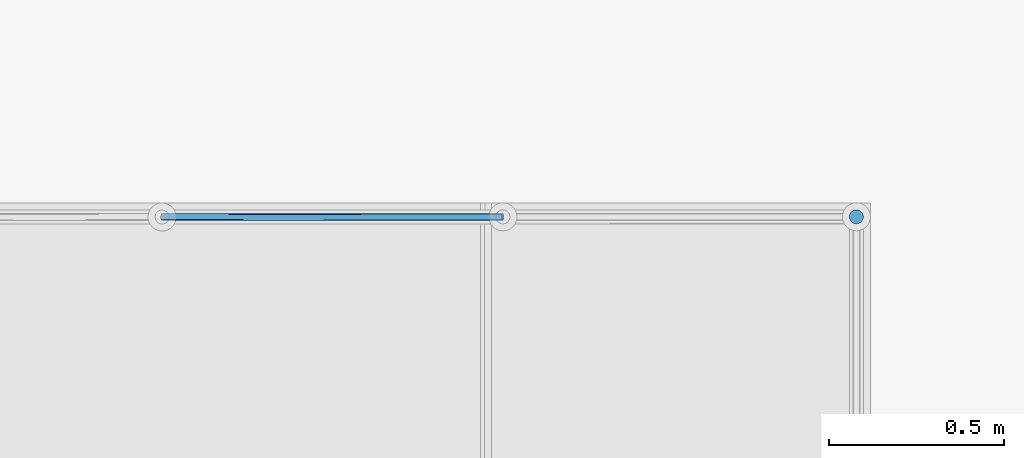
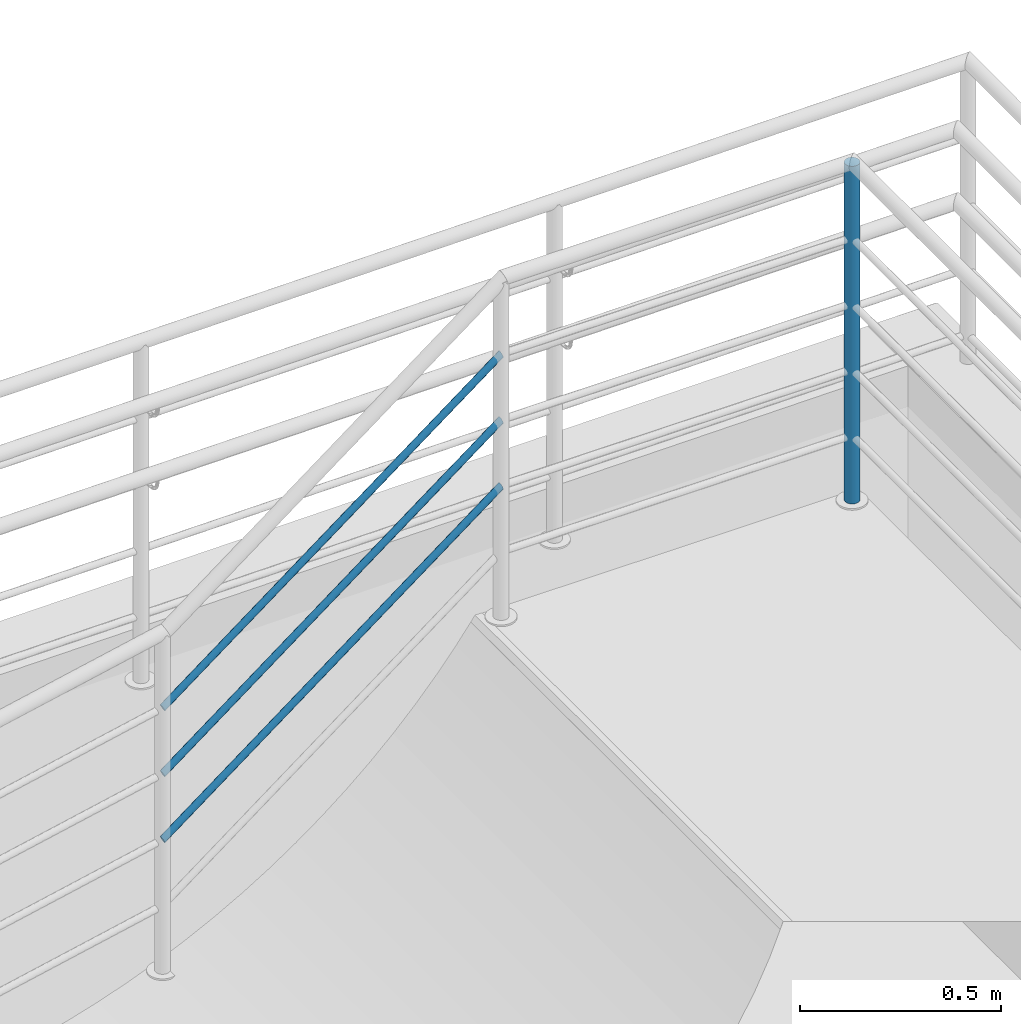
# One storey, part 53 of 237: 5 building element parts, 1 element without a shape of its own.
"""IFC2X3 building model written with IfcOpenShell, lengths in millimetres."""

import ifcopenshell
import ifcopenshell.guid

model = None  # the IFC model being written
_history = None  # IfcOwnerHistory: only IFC2X3 demands one
_inside = {}  # id of a spatial element -> (the spatial element, [elements in it])
_under = {}  # id of a project, library or spatial element -> (it, [spatial elements below it])
_declared = {}  # id of a project -> (the project, [libraries it declares])
_typed = {}  # id of a type object -> (the type object, [elements of that type])
_made_of = {}  # id of a material, layer set ... -> (it, [elements and type objects made of it])


def new_model(schema):
    """Start an empty IFC model of exactly this schema.

    Asked for "IFC4X3", IfcOpenShell would pick the latest addendum, in which some entities
    have other attributes; the version numbers below select the first issue.
    IFC2X3 requires an IfcOwnerHistory on every rooted entity: one is made here for all.
    """
    global model, _history
    if schema == "IFC4X3":
        model = ifcopenshell.file(schema_version=(4, 3, 0, 0))
    else:
        model = ifcopenshell.file(schema=schema)
    _inside.clear()
    _under.clear()
    _declared.clear()
    _typed.clear()
    _made_of.clear()
    _history = None
    if model.schema == "IFC2X3":
        org = make("IfcOrganization", Name="unknown")
        user = make(
            "IfcPersonAndOrganization",
            ThePerson=make("IfcPerson", FamilyName="unknown"),
            TheOrganization=org,
        )
        app = make(
            "IfcApplication",
            ApplicationDeveloper=org,
            Version="unknown",
            ApplicationFullName="unknown",
            ApplicationIdentifier="unknown",
        )
        _history = make(
            "IfcOwnerHistory",
            OwningUser=user,
            OwningApplication=app,
            ChangeAction="ADDED",
            CreationDate=0,
        )
    return model


def make(cls, **values):
    """One entity of the class cls with the attributes given. An attribute that is None is left unset."""
    return model.create_entity(
        cls, **{name: value for name, value in values.items() if value is not None}
    )


def entity(cls, *values):
    """Any entity or typed value of the class cls, its attributes in the order of the schema. None: left unset."""
    e = model.create_entity(cls)
    for i, value in enumerate(values):
        if value is not None:
            e[i] = value
    return e


def rooted(cls, **values):
    """An entity with a GlobalId (a new one), such as an element, a storey or a relation."""
    return make(cls, GlobalId=ifcopenshell.guid.new(), OwnerHistory=_history, **values)


def si_unit(unit_type, name, prefix=None):
    """IfcSIUnit, for example si_unit("LENGTHUNIT", "METRE", prefix="MILLI")."""
    return make("IfcSIUnit", UnitType=unit_type, Prefix=prefix, Name=name)


def converted_unit(unit_type, name, factor, base, dimensions=None, offset=None):
    """IfcConversionBasedUnit, such as the inch: factor (a typed value) times the base unit."""
    return make(
        "IfcConversionBasedUnit"
        if offset is None
        else "IfcConversionBasedUnitWithOffset",
        ConversionOffset=offset,
        Dimensions=None
        if dimensions is None
        else entity("IfcDimensionalExponents", *dimensions),
        UnitType=unit_type,
        Name=name,
        ConversionFactor=make(
            "IfcMeasureWithUnit", ValueComponent=factor, UnitComponent=base
        ),
    )


def derived_unit(unit_type, elements):
    """IfcDerivedUnit: a product of units, each with its exponent."""
    return make(
        "IfcDerivedUnit",
        Elements=[
            make("IfcDerivedUnitElement", Unit=unit, Exponent=power)
            for unit, power in elements
        ],
        UnitType=unit_type,
    )


def money_unit(currency):
    """IfcMonetaryUnit."""
    return make("IfcMonetaryUnit", Currency=currency)


def assignment(units):
    """IfcUnitAssignment: the units of a project."""
    return None if units is None else make("IfcUnitAssignment", Units=units)


def point(xyz):
    """IfcCartesianPoint."""
    return None if xyz is None else make("IfcCartesianPoint", Coordinates=xyz)


def direction(xyz):
    """IfcDirection."""
    return None if xyz is None else make("IfcDirection", DirectionRatios=xyz)


def frame(location, z_axis=None, x_axis=None):
    """IfcAxis2Placement3D, a coordinate frame: its origin and axes. An axis left out is left unset."""
    return make(
        "IfcAxis2Placement3D",
        Location=point(location),
        Axis=direction(z_axis),
        RefDirection=direction(x_axis),
    )


def origin_with_axes():
    """The frame at (0, 0, 0) with the z axis (0, 0, 1) and the x axis (1, 0, 0) written out."""
    return frame((0.0, 0.0, 0.0), z_axis=(0.0, 0.0, 1.0), x_axis=(1.0, 0.0, 0.0))


def place(relative_to, where):
    """IfcLocalPlacement: puts the frame where relative to a parent placement (None: the world)."""
    return make(
        "IfcLocalPlacement", PlacementRelTo=relative_to, RelativePlacement=where
    )


def context(
    kind, dimensions, precision=None, world=None, true_north=None, identifier=None
):
    """IfcGeometricRepresentationContext, for example the 3D "Model" context."""
    return make(
        "IfcGeometricRepresentationContext",
        ContextIdentifier=identifier,
        ContextType=kind,
        CoordinateSpaceDimension=dimensions,
        Precision=precision,
        WorldCoordinateSystem=world,
        TrueNorth=true_north,
    )


def subcontext(parent, identifier, kind, view, scale=None):
    """IfcGeometricRepresentationSubContext, for example "Body" below "Model"."""
    return make(
        "IfcGeometricRepresentationSubContext",
        ContextIdentifier=identifier,
        ContextType=kind,
        ParentContext=parent,
        TargetScale=scale,
        TargetView=view,
    )


def project(units=None, contexts=None):
    """IfcProject with its units and contexts."""
    return rooted(
        "IfcProject",
        Name="project",
        RepresentationContexts=contexts,
        UnitsInContext=assignment(units),
    )


def spatial(cls, under=None, at=None, **own):
    """A site, building, storey or space (cls), placed at a placement, below another one or the project."""
    s = rooted(cls, ObjectPlacement=at, **own)
    if under is not None:
        _under.setdefault(under.id(), (under, []))[1].append(s)
    return s


def faces_of(points, faces, orient=None, outer=None):
    """IfcFace entities. A face is a list of loops; a loop is a list of indices into points, from 0.

    orient and outer hold one flag for each loop. By default every Orientation is true, the
    first loop of a face is its IfcFaceOuterBound and the others are IfcFaceBound.
    """
    made = []
    for i, loops in enumerate(faces):
        bounds = []
        for j, loop in enumerate(loops):
            is_outer = j == 0 if outer is None else outer[i][j]
            bounds.append(
                make(
                    "IfcFaceOuterBound" if is_outer else "IfcFaceBound",
                    Bound=make("IfcPolyLoop", Polygon=[points[k] for k in loop]),
                    Orientation=True if orient is None else orient[i][j],
                )
            )
        made.append(make("IfcFace", Bounds=bounds))
    return made


def faceted_brep(points, faces, orient=None, outer=None, voids=None):
    """IfcFacetedBrep: a solid bounded by flat faces; with voids (closed shells), ...WithVoids."""
    shared = [point(p) for p in points]
    hull = make("IfcClosedShell", CfsFaces=faces_of(shared, faces, orient, outer))
    if voids is None:
        return make("IfcFacetedBrep", Outer=hull)
    return make(
        "IfcFacetedBrepWithVoids",
        Outer=hull,
        Voids=[
            make(cls, CfsFaces=faces_of(shared, fs, o, b)) for cls, fs, o, b in voids
        ],
    )


def shape(context_of_items, identifier, shape_type, items):
    """IfcShapeRepresentation: the items that make up one representation, for example the "Body"."""
    return make(
        "IfcShapeRepresentation",
        ContextOfItems=context_of_items,
        RepresentationIdentifier=identifier,
        RepresentationType=shape_type,
        Items=items,
    )


def material(Name=None, Category=None):
    """IfcMaterial."""
    return make("IfcMaterial", Name=Name, Category=Category)


def made_of(thing, what):
    """Note that an element or type object is made of a material, layer set ...; save() writes the relation."""
    if what is not None:
        _made_of.setdefault(what.id(), (what, []))[1].append(thing)
    return thing


def type_object(cls, material=None, **own):
    """A type object (cls), such as IfcWallType, which elements share."""
    return made_of(rooted(cls, **own), material)


def element(
    cls,
    number,
    at=None,
    inside=None,
    cuts=None,
    type_object=None,
    material=None,
    context=None,
    identifier="Body",
    shape_type=None,
    held_by="IfcProductDefinitionShape",
    body=None,
    shapes=None,
    **own,
):
    """One element of the class cls, such as IfcWall. Its Tag is "e" and its number.

    at: its placement. inside: the storey or other place that contains it. cuts: it is an
    opening in that element (IfcRelVoidsElement). A single representation is given by context,
    identifier, shape_type and body (its items); several are given by shapes. held_by: the class
    of the entity that holds the representations. save() writes the other relations.
    """
    e = rooted(cls, Tag="e%d" % number, ObjectPlacement=at, **own)
    if body is not None:
        shapes = [shape(context, identifier, shape_type, body)]
    if shapes is not None:
        e.Representation = make(held_by, Representations=shapes)
    if inside is not None:
        _inside.setdefault(inside.id(), (inside, []))[1].append(e)
    if cuts is not None:
        rooted(
            "IfcRelVoidsElement", RelatingBuildingElement=cuts, RelatedOpeningElement=e
        )
    if type_object is not None:
        _typed.setdefault(type_object.id(), (type_object, []))[1].append(e)
    return made_of(e, material)


def aggregate(whole, parts):
    """IfcRelAggregates: a whole, such as a stair, and the parts it consists of."""
    return rooted("IfcRelAggregates", RelatingObject=whole, RelatedObjects=parts)


def save(model, path):
    """Write the relations noted so far, then the file.

    IfcRelAggregates (storeys below a building ...), IfcRelContainedInSpatialStructure (elements
    in a storey), IfcRelDefinesByType, IfcRelAssociatesMaterial and IfcRelDeclares: one each for
    every whole, place, type object, material and project.
    """
    for whole, parts in _under.values():
        aggregate(whole, parts)
    for where, things in _inside.values():
        rooted(
            "IfcRelContainedInSpatialStructure",
            RelatedElements=things,
            RelatingStructure=where,
        )
    for kind, things in _typed.values():
        rooted("IfcRelDefinesByType", RelatedObjects=things, RelatingType=kind)
    for what, things in _made_of.values():
        rooted("IfcRelAssociatesMaterial", RelatedObjects=things, RelatingMaterial=what)
    for by, libraries in _declared.values():
        rooted("IfcRelDeclares", RelatingContext=by, RelatedDefinitions=libraries)
    model.write(path)


model = new_model("IFC2X3")

# Units and contexts
model_context = context("Model", 3, precision=0.01, world=origin_with_axes(), true_north=direction((0.0, 1.0)))
body_context = subcontext(model_context, "Body", "Model", "MODEL_VIEW")
ifc_project = project(units=[si_unit("LENGTHUNIT", "METRE", prefix="MILLI"), si_unit("AREAUNIT", "SQUARE_METRE"), si_unit("VOLUMEUNIT", "CUBIC_METRE"), converted_unit("PLANEANGLEUNIT", "DEGREE", entity("IfcPlaneAngleMeasure", 0.0174532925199), si_unit("PLANEANGLEUNIT", "RADIAN"), dimensions=[0, 0, 0, 0, 0, 0, 0]), money_unit("USD"), converted_unit("TIMEUNIT", "Year", entity("IfcTimeMeasure", 31556926.0), si_unit("TIMEUNIT", "SECOND"), dimensions=[0, 0, 1, 0, 0, 0, 0]), si_unit("MASSUNIT", "GRAM", prefix="KILO"), si_unit("THERMODYNAMICTEMPERATUREUNIT", "DEGREE_CELSIUS"), si_unit("LUMINOUSINTENSITYUNIT", "LUMEN"), si_unit("ENERGYUNIT", "JOULE", prefix="MEGA"), derived_unit("THERMALCONDUCTANCEUNIT", [(si_unit("POWERUNIT", "WATT"), 1), (si_unit("LENGTHUNIT", "METRE"), -1), (si_unit("THERMODYNAMICTEMPERATUREUNIT", "KELVIN"), -1)]), derived_unit("SPECIFICHEATCAPACITYUNIT", [(si_unit("ENERGYUNIT", "JOULE"), 1), (si_unit("MASSUNIT", "GRAM", prefix="KILO"), -1), (si_unit("THERMODYNAMICTEMPERATUREUNIT", "KELVIN"), -1)]), derived_unit("MASSDENSITYUNIT", [(si_unit("MASSUNIT", "GRAM", prefix="KILO"), 1), (si_unit("VOLUMEUNIT", "CUBIC_METRE"), -1)])], contexts=[model_context])

# Site, building, storey
site_placement = place(None, origin_with_axes())
site = spatial("IfcSite", under=ifc_project, at=site_placement, Name="Local", CompositionType="ELEMENT")
building_placement = place(site_placement, origin_with_axes())
building = spatial("IfcBuilding", under=site, at=building_placement, Name="Construção", CompositionType="ELEMENT")
storey_placement = place(building_placement, origin_with_axes())
storey = spatial("IfcBuildingStorey", under=building, at=storey_placement, Name="Pavimento Térreo", CompositionType="ELEMENT", Elevation=0.0)

# Railing, building element parts
railing_type = type_object("IfcRailingType", Name="Tipo de Guarda-Corpo", PredefinedType="NOTDEFINED")
railing_placement = place(storey_placement, frame((61612.4440926, 28006.4497128, -1265.99547451), z_axis=(0.0, 0.0, 1.0), x_axis=(-1.0, 0.0, 0.0)))
railing = element("IfcRailing", 1, at=railing_placement, inside=storey, type_object=railing_type, Name="Guarda-Corpo - 001", PredefinedType="NOTDEFINED")
ifc_material = material(Name="Aço - Inoxidável")
building_element_part_1_placement = place(railing_placement, origin_with_axes())
building_element_part_1 = element("IfcBuildingElementPart", 2, at=building_element_part_1_placement, material=ifc_material, Name="Aço - Inoxidável", context=body_context, shape_type="Brep", body=[
    faceted_brep([(-2829.69615583, -5845.00643687, 913.887277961), (-2830.00000066, -5848.47940043, 913.887277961), (-2830.00000066, -5848.47940043, 1938.88727796), (-2829.69615583, -5845.00643687, 1938.88727796), (-2829.6961556, -5851.95236397, 913.887277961), (-2828.7938533, -5841.63899752, 913.887277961), (-2827.32050906, -5838.47940034, 913.887277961), (-2825.32088994, -5835.62364808, 913.887277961), (-2822.85575336, -5833.15851133, 913.887277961), (-2820.00000123, -5831.15889202, 913.887277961), (-2816.84040414, -5829.68554758, 913.887277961), (-2813.47296486, -5828.78324482, 913.887277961), (-2810.00000132, -5828.47939977, 913.887277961), (-2806.52703775, -5828.7832446, 913.887277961), (-2803.15959841, -5829.68554713, 913.887277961), (-2800.00000123, -5831.15889137, 913.887277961), (-2797.14424897, -5833.15851048, 913.887277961), (-2794.67911222, -5835.62364707, 913.887277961), (-2792.67949291, -5838.4793992, 913.887277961), (-2791.20614847, -5841.63899629, 913.887277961), (-2790.30384571, -5845.00643557, 913.887277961), (-2790.00000066, -5848.47939911, 913.887277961), (-2790.30384548, -5851.95236268, 913.887277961), (-2791.20614802, -5855.31980202, 913.887277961), (-2792.67949225, -5858.4793992, 913.887277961), (-2794.67911137, -5861.33515146, 913.887277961), (-2797.14424796, -5863.80028821, 913.887277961), (-2800.00000009, -5865.79990752, 913.887277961), (-2803.15959717, -5867.27325196, 913.887277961), (-2806.52703646, -5868.17555472, 913.887277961), (-2810.0, -5868.47939977, 913.887277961), (-2813.47296356, -5868.17555494, 913.887277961), (-2816.84040291, -5867.27325241, 913.887277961), (-2820.00000009, -5865.79990818, 913.887277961), (-2822.85575235, -5863.80028906, 913.887277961), (-2825.3208891, -5861.33515247, 913.887277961), (-2827.3205084, -5858.47940034, 913.887277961), (-2828.79385285, -5855.31980326, 913.887277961), (-2829.6961556, -5851.95236397, 1938.88727796), (-2806.52703775, -5828.7832446, 1938.88727796), (-2810.00000132, -5828.47939977, 1938.88727796), (-2813.47296486, -5828.78324482, 1938.88727796), (-2816.84040414, -5829.68554758, 1938.88727796), (-2820.00000123, -5831.15889202, 1938.88727796), (-2822.85575336, -5833.15851133, 1938.88727796), (-2825.32088994, -5835.62364808, 1938.88727796), (-2827.32050906, -5838.47940034, 1938.88727796), (-2828.7938533, -5841.63899752, 1938.88727796), (-2828.79385285, -5855.31980326, 1938.88727796), (-2827.3205084, -5858.47940034, 1938.88727796), (-2825.3208891, -5861.33515247, 1938.88727796), (-2822.85575235, -5863.80028906, 1938.88727796), (-2820.00000009, -5865.79990818, 1938.88727796), (-2816.84040291, -5867.27325241, 1938.88727796), (-2813.47296356, -5868.17555494, 1938.88727796), (-2810.0, -5868.47939977, 1938.88727796), (-2806.52703646, -5868.17555472, 1938.88727796), (-2803.15959717, -5867.27325196, 1938.88727796), (-2800.00000009, -5865.79990752, 1938.88727796), (-2797.14424796, -5863.80028821, 1938.88727796), (-2794.67911137, -5861.33515146, 1938.88727796), (-2792.67949225, -5858.4793992, 1938.88727796), (-2791.20614802, -5855.31980202, 1938.88727796), (-2790.30384548, -5851.95236268, 1938.88727796), (-2790.00000066, -5848.47939911, 1938.88727796), (-2790.30384571, -5845.00643557, 1938.88727796), (-2791.20614847, -5841.63899629, 1938.88727796), (-2792.67949291, -5838.4793992, 1938.88727796), (-2794.67911222, -5835.62364707, 1938.88727796), (-2797.14424897, -5833.15851048, 1938.88727796), (-2800.00000123, -5831.15889137, 1938.88727796), (-2803.15959841, -5829.68554713, 1938.88727796)], [[[0, 1, 2, 3]], [[4, 1, 0, 5, 6, 7, 8, 9, 10, 11, 12, 13, 14, 15, 16, 17, 18, 19, 20, 21, 22, 23, 24, 25, 26, 27, 28, 29, 30, 31, 32, 33, 34, 35, 36, 37]], [[1, 4, 38, 2]], [[39, 40, 41, 42, 43, 44, 45, 46, 47, 3, 2, 38, 48, 49, 50, 51, 52, 53, 54, 55, 56, 57, 58, 59, 60, 61, 62, 63, 64, 65, 66, 67, 68, 69, 70, 71]], [[5, 0, 3, 47]], [[6, 5, 47, 46]], [[7, 6, 46, 45]], [[8, 7, 45, 44]], [[9, 8, 44, 43]], [[10, 9, 43, 42]], [[11, 10, 42, 41]], [[12, 11, 41, 40]], [[13, 12, 40, 39]], [[14, 13, 39, 71]], [[15, 14, 71, 70]], [[16, 15, 70, 69]], [[17, 16, 69, 68]], [[18, 17, 68, 67]], [[19, 18, 67, 66]], [[20, 19, 66, 65]], [[21, 20, 65, 64]], [[22, 21, 64, 63]], [[23, 22, 63, 62]], [[24, 23, 62, 61]], [[25, 24, 61, 60]], [[26, 25, 60, 59]], [[27, 26, 59, 58]], [[28, 27, 58, 57]], [[29, 28, 57, 56]], [[30, 29, 56, 55]], [[31, 30, 55, 54]], [[32, 31, 54, 53]], [[33, 32, 53, 52]], [[34, 33, 52, 51]], [[35, 34, 51, 50]], [[36, 35, 50, 49]], [[37, 36, 49, 48]], [[4, 37, 48, 38]]]),
])
building_element_part_2_placement = place(railing_placement, origin_with_axes())
building_element_part_2 = element("IfcBuildingElementPart", 3, at=building_element_part_2_placement, material=ifc_material, Name="Aço - Inoxidável", context=body_context, shape_type="Brep", body=[
    faceted_brep([(-1801.89150228, -5838.29943648, 1308.39280772), (-1801.31001503, -5838.45116837, 1310.1292895), (-828.932821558, -5837.9509856, 576.73192934), (-1802.47288993, -5838.45154953, 1306.65632595), (-1803.03651283, -5838.90288562, 1304.97260629), (-1803.56524556, -5839.63973115, 1303.39280773), (-1804.04302286, -5840.63969742, 1301.96493163), (-1804.4553277, -5841.87240098, 1300.7323633), (-1804.78963241, -5843.30038675, 1299.73255369), (-1805.0357793, -5844.8802661, 1298.99588153), (-1805.18628934, -5846.5640352, 1298.5447302), (-1805.23658935, -5848.30053357, 1298.39280773), (-1805.18515099, -5850.0369986, 1298.5447302), (-1805.03353718, -5851.72066867, 1298.99588153), (-1804.78635464, -5853.30038632, 1299.73255369), (-1804.45111389, -5854.72815263, 1300.7323633), (-1804.03800103, -5855.96058563, 1301.96493163), (-1803.55956831, -5856.96023848, 1303.39280773), (-1803.03035265, -5857.69673724, 1304.97260629), (-1802.466434, -5858.14770375, 1306.65632595), (-1801.88494675, -5858.29943563, 1308.39280772), (-1801.3035591, -5858.14732259, 1310.1292895), (-1800.73993621, -5857.69598649, 1311.81300915), (-1800.21120347, -5856.95914097, 1313.39280772), (-1799.73342618, -5855.95917469, 1314.82068381), (-1799.32112133, -5854.72647114, 1316.05325214), (-1798.98681663, -5853.29848537, 1317.05306175), (-1798.74066973, -5851.71860602, 1317.78973392), (-1798.59015969, -5850.03483692, 1318.24088524), (-1798.53985968, -5848.29833854, 1318.39280771), (-1798.59129804, -5846.56187351, 1318.24088524), (-1798.74291185, -5844.87820344, 1317.78973392), (-1798.99009439, -5843.29848579, 1317.05306175), (-1799.32533514, -5841.87071949, 1316.05325214), (-1799.738448, -5840.63828648, 1314.82068381), (-1800.21688072, -5839.63863363, 1313.39280772), (-1800.74609638, -5838.90213488, 1311.81300915), (-828.218296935, -5838.40219207, 578.301919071), (-829.669761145, -5837.7990063, 575.112741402), (-830.406724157, -5837.95087197, 573.493553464), (-831.121318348, -5838.40196825, 571.923563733), (-831.791831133, -5839.1385888, 570.450475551), (-832.397889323, -5840.1383518, 569.119047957), (-832.921078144, -5841.37087994, 567.969735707), (-833.34550077, -5842.79872347, 567.037460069), (-833.658261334, -5844.37849811, 566.350547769), (-833.849856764, -5846.06220318, 565.929870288), (-833.914465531, -5847.79868018, 565.788209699), (-833.850124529, -5849.53516712, 565.929870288), (-833.658788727, -5851.21890172, 566.350547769), (-833.346271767, -5852.79872456, 567.037460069), (-832.922069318, -5854.22663353, 567.969735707), (-832.399070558, -5855.45924232, 569.119047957), (-831.793166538, -5856.45909876, 570.450475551), (-831.122767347, -5857.1958227, 571.923563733), (-830.408242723, -5857.64702917, 573.493553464), (-829.671303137, -5857.79900847, 575.112741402), (-828.934340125, -5857.6471428, 576.73192934), (-828.219745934, -5857.19604652, 578.301919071), (-827.549233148, -5856.45942597, 579.775007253), (-826.943174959, -5855.45966297, 581.106434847), (-826.419986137, -5854.22713483, 582.255747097), (-825.995563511, -5852.7992913, 583.188022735), (-825.682802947, -5851.21951666, 583.874935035), (-825.491207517, -5849.53581158, 584.295612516), (-825.426598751, -5847.79933459, 584.437273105), (-825.490939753, -5846.06284765, 584.295612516), (-825.682275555, -5844.37911305, 583.874935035), (-825.994792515, -5842.79929021, 583.188022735), (-826.418994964, -5841.37138124, 582.255747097), (-826.941993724, -5840.13877245, 581.106434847), (-827.547897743, -5839.13891601, 579.775007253)], [[[0, 1, 2]], [[0, 3, 4, 5, 6, 7, 8, 9, 10, 11, 12, 13, 14, 15, 16, 17, 18, 19, 20, 21, 22, 23, 24, 25, 26, 27, 28, 29, 30, 31, 32, 33, 34, 35, 36, 1]], [[1, 37, 2]], [[0, 2, 38]], [[3, 0, 38]], [[4, 3, 39]], [[5, 4, 40]], [[6, 5, 41]], [[7, 6, 42]], [[8, 7, 43]], [[9, 8, 44]], [[10, 9, 45]], [[11, 10, 46]], [[12, 11, 47]], [[13, 12, 48]], [[14, 13, 49]], [[15, 14, 50]], [[16, 15, 51]], [[17, 16, 52]], [[18, 17, 53]], [[19, 18, 54]], [[20, 19, 55]], [[21, 20, 56]], [[22, 21, 57]], [[23, 22, 58]], [[24, 23, 59]], [[25, 24, 60]], [[26, 25, 61]], [[27, 26, 62]], [[28, 27, 63]], [[29, 28, 64]], [[30, 29, 65]], [[31, 30, 66]], [[32, 31, 67]], [[33, 32, 68]], [[34, 33, 69]], [[35, 34, 70]], [[36, 35, 71]], [[1, 36, 37]], [[38, 2, 37, 71, 70, 69, 68, 67, 66, 65, 64, 63, 62, 61, 60, 59, 58, 57, 56, 55, 54, 53, 52, 51, 50, 49, 48, 47, 46, 45, 44, 43, 42, 41, 40, 39]], [[3, 38, 39]], [[4, 39, 40]], [[5, 40, 41]], [[6, 41, 42]], [[7, 42, 43]], [[8, 43, 44]], [[9, 44, 45]], [[10, 45, 46]], [[11, 46, 47]], [[12, 47, 48]], [[13, 48, 49]], [[14, 49, 50]], [[15, 50, 51]], [[16, 51, 52]], [[17, 52, 53]], [[18, 53, 54]], [[19, 54, 55]], [[20, 55, 56]], [[21, 56, 57]], [[22, 57, 58]], [[23, 58, 59]], [[24, 59, 60]], [[25, 60, 61]], [[26, 61, 62]], [[27, 62, 63]], [[28, 63, 64]], [[29, 64, 65]], [[30, 65, 66]], [[31, 66, 67]], [[32, 67, 68]], [[33, 68, 69]], [[34, 69, 70]], [[35, 70, 71]], [[36, 71, 37]]]),
])
building_element_part_3_placement = place(railing_placement, origin_with_axes())
building_element_part_3 = element("IfcBuildingElementPart", 4, at=building_element_part_3_placement, material=ifc_material, Name="Aço - Inoxidável", context=body_context, shape_type="Brep", body=[
    faceted_brep([(-1801.89150228, -5838.29943648, 1308.39280772), (-1801.31001503, -5838.45116837, 1310.1292895), (-828.932821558, -5837.9509856, 576.73192934), (-1802.47288993, -5838.45154953, 1306.65632595), (-1803.03651283, -5838.90288562, 1304.97260629), (-1803.56524556, -5839.63973115, 1303.39280773), (-1804.04302286, -5840.63969742, 1301.96493163), (-1804.4553277, -5841.87240098, 1300.7323633), (-1804.78963241, -5843.30038675, 1299.73255369), (-1805.0357793, -5844.8802661, 1298.99588153), (-1805.18628934, -5846.5640352, 1298.5447302), (-1805.23658935, -5848.30053357, 1298.39280773), (-1805.18515099, -5850.0369986, 1298.5447302), (-1805.03353718, -5851.72066867, 1298.99588153), (-1804.78635464, -5853.30038632, 1299.73255369), (-1804.45111389, -5854.72815263, 1300.7323633), (-1804.03800103, -5855.96058563, 1301.96493163), (-1803.55956831, -5856.96023848, 1303.39280773), (-1803.03035265, -5857.69673724, 1304.97260629), (-1802.466434, -5858.14770375, 1306.65632595), (-1801.88494675, -5858.29943563, 1308.39280772), (-1801.3035591, -5858.14732259, 1310.1292895), (-1800.73993621, -5857.69598649, 1311.81300915), (-1800.21120347, -5856.95914097, 1313.39280772), (-1799.73342618, -5855.95917469, 1314.82068381), (-1799.32112133, -5854.72647114, 1316.05325214), (-1798.98681663, -5853.29848537, 1317.05306175), (-1798.74066973, -5851.71860602, 1317.78973392), (-1798.59015969, -5850.03483692, 1318.24088524), (-1798.53985968, -5848.29833854, 1318.39280771), (-1798.59129804, -5846.56187351, 1318.24088524), (-1798.74291185, -5844.87820344, 1317.78973392), (-1798.99009439, -5843.29848579, 1317.05306175), (-1799.32533514, -5841.87071949, 1316.05325214), (-1799.738448, -5840.63828648, 1314.82068381), (-1800.21688072, -5839.63863363, 1313.39280772), (-1800.74609638, -5838.90213488, 1311.81300915), (-828.218296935, -5838.40219207, 578.301919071), (-829.669761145, -5837.7990063, 575.112741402), (-830.406724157, -5837.95087197, 573.493553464), (-831.121318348, -5838.40196825, 571.923563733), (-831.791831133, -5839.1385888, 570.450475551), (-832.397889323, -5840.1383518, 569.119047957), (-832.921078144, -5841.37087994, 567.969735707), (-833.34550077, -5842.79872347, 567.037460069), (-833.658261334, -5844.37849811, 566.350547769), (-833.849856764, -5846.06220318, 565.929870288), (-833.914465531, -5847.79868018, 565.788209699), (-833.850124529, -5849.53516712, 565.929870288), (-833.658788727, -5851.21890172, 566.350547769), (-833.346271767, -5852.79872456, 567.037460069), (-832.922069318, -5854.22663353, 567.969735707), (-832.399070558, -5855.45924232, 569.119047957), (-831.793166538, -5856.45909876, 570.450475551), (-831.122767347, -5857.1958227, 571.923563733), (-830.408242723, -5857.64702917, 573.493553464), (-829.671303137, -5857.79900847, 575.112741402), (-828.934340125, -5857.6471428, 576.73192934), (-828.219745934, -5857.19604652, 578.301919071), (-827.549233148, -5856.45942597, 579.775007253), (-826.943174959, -5855.45966297, 581.106434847), (-826.419986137, -5854.22713483, 582.255747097), (-825.995563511, -5852.7992913, 583.188022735), (-825.682802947, -5851.21951666, 583.874935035), (-825.491207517, -5849.53581158, 584.295612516), (-825.426598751, -5847.79933459, 584.437273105), (-825.490939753, -5846.06284765, 584.295612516), (-825.682275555, -5844.37911305, 583.874935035), (-825.994792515, -5842.79929021, 583.188022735), (-826.418994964, -5841.37138124, 582.255747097), (-826.941993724, -5840.13877245, 581.106434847), (-827.547897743, -5839.13891601, 579.775007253)], [[[0, 1, 2]], [[0, 3, 4, 5, 6, 7, 8, 9, 10, 11, 12, 13, 14, 15, 16, 17, 18, 19, 20, 21, 22, 23, 24, 25, 26, 27, 28, 29, 30, 31, 32, 33, 34, 35, 36, 1]], [[1, 37, 2]], [[0, 2, 38]], [[3, 0, 38]], [[4, 3, 39]], [[5, 4, 40]], [[6, 5, 41]], [[7, 6, 42]], [[8, 7, 43]], [[9, 8, 44]], [[10, 9, 45]], [[11, 10, 46]], [[12, 11, 47]], [[13, 12, 48]], [[14, 13, 49]], [[15, 14, 50]], [[16, 15, 51]], [[17, 16, 52]], [[18, 17, 53]], [[19, 18, 54]], [[20, 19, 55]], [[21, 20, 56]], [[22, 21, 57]], [[23, 22, 58]], [[24, 23, 59]], [[25, 24, 60]], [[26, 25, 61]], [[27, 26, 62]], [[28, 27, 63]], [[29, 28, 64]], [[30, 29, 65]], [[31, 30, 66]], [[32, 31, 67]], [[33, 32, 68]], [[34, 33, 69]], [[35, 34, 70]], [[36, 35, 71]], [[1, 36, 37]], [[38, 2, 37, 71, 70, 69, 68, 67, 66, 65, 64, 63, 62, 61, 60, 59, 58, 57, 56, 55, 54, 53, 52, 51, 50, 49, 48, 47, 46, 45, 44, 43, 42, 41, 40, 39]], [[3, 38, 39]], [[4, 39, 40]], [[5, 40, 41]], [[6, 41, 42]], [[7, 42, 43]], [[8, 43, 44]], [[9, 44, 45]], [[10, 45, 46]], [[11, 46, 47]], [[12, 47, 48]], [[13, 48, 49]], [[14, 49, 50]], [[15, 50, 51]], [[16, 51, 52]], [[17, 52, 53]], [[18, 53, 54]], [[19, 54, 55]], [[20, 55, 56]], [[21, 56, 57]], [[22, 57, 58]], [[23, 58, 59]], [[24, 59, 60]], [[25, 60, 61]], [[26, 61, 62]], [[27, 62, 63]], [[28, 63, 64]], [[29, 64, 65]], [[30, 65, 66]], [[31, 66, 67]], [[32, 67, 68]], [[33, 68, 69]], [[34, 69, 70]], [[35, 70, 71]], [[36, 71, 37]]]),
])
building_element_part_4_placement = place(railing_placement, origin_with_axes())
building_element_part_4 = element("IfcBuildingElementPart", 5, at=building_element_part_4_placement, material=ifc_material, Name="Aço - Inoxidável", context=body_context, shape_type="Brep", body=[
    faceted_brep([(-1801.89150228, -5838.29943648, 1508.39280772), (-1801.31001503, -5838.45116837, 1510.1292895), (-828.932821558, -5837.9509856, 776.73192934), (-1802.47288993, -5838.45154953, 1506.65632595), (-1803.03651283, -5838.90288562, 1504.97260629), (-1803.56524556, -5839.63973115, 1503.39280773), (-1804.04302286, -5840.63969742, 1501.96493163), (-1804.4553277, -5841.87240098, 1500.7323633), (-1804.78963241, -5843.30038675, 1499.73255369), (-1805.0357793, -5844.8802661, 1498.99588153), (-1805.18628934, -5846.5640352, 1498.5447302), (-1805.23658935, -5848.30053357, 1498.39280773), (-1805.18515099, -5850.0369986, 1498.5447302), (-1805.03353718, -5851.72066867, 1498.99588153), (-1804.78635464, -5853.30038632, 1499.73255369), (-1804.45111389, -5854.72815263, 1500.7323633), (-1804.03800103, -5855.96058563, 1501.96493163), (-1803.55956831, -5856.96023848, 1503.39280773), (-1803.03035265, -5857.69673724, 1504.97260629), (-1802.466434, -5858.14770375, 1506.65632595), (-1801.88494675, -5858.29943563, 1508.39280772), (-1801.3035591, -5858.14732259, 1510.1292895), (-1800.73993621, -5857.69598649, 1511.81300915), (-1800.21120347, -5856.95914097, 1513.39280772), (-1799.73342618, -5855.95917469, 1514.82068381), (-1799.32112133, -5854.72647114, 1516.05325214), (-1798.98681663, -5853.29848537, 1517.05306175), (-1798.74066973, -5851.71860602, 1517.78973392), (-1798.59015969, -5850.03483692, 1518.24088524), (-1798.53985968, -5848.29833854, 1518.39280771), (-1798.59129804, -5846.56187351, 1518.24088524), (-1798.74291185, -5844.87820344, 1517.78973392), (-1798.99009439, -5843.29848579, 1517.05306175), (-1799.32533514, -5841.87071949, 1516.05325214), (-1799.738448, -5840.63828648, 1514.82068381), (-1800.21688072, -5839.63863363, 1513.39280772), (-1800.74609638, -5838.90213488, 1511.81300915), (-828.218296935, -5838.40219207, 778.301919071), (-829.669761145, -5837.7990063, 775.112741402), (-830.406724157, -5837.95087197, 773.493553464), (-831.121318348, -5838.40196825, 771.923563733), (-831.791831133, -5839.1385888, 770.450475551), (-832.397889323, -5840.1383518, 769.119047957), (-832.921078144, -5841.37087994, 767.969735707), (-833.34550077, -5842.79872347, 767.037460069), (-833.658261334, -5844.37849811, 766.350547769), (-833.849856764, -5846.06220318, 765.929870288), (-833.914465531, -5847.79868018, 765.788209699), (-833.850124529, -5849.53516712, 765.929870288), (-833.658788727, -5851.21890172, 766.350547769), (-833.346271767, -5852.79872456, 767.037460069), (-832.922069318, -5854.22663353, 767.969735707), (-832.399070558, -5855.45924232, 769.119047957), (-831.793166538, -5856.45909876, 770.450475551), (-831.122767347, -5857.1958227, 771.923563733), (-830.408242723, -5857.64702917, 773.493553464), (-829.671303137, -5857.79900847, 775.112741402), (-828.934340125, -5857.6471428, 776.73192934), (-828.219745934, -5857.19604652, 778.301919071), (-827.549233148, -5856.45942597, 779.775007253), (-826.943174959, -5855.45966297, 781.106434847), (-826.419986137, -5854.22713483, 782.255747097), (-825.995563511, -5852.7992913, 783.188022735), (-825.682802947, -5851.21951666, 783.874935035), (-825.491207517, -5849.53581158, 784.295612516), (-825.426598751, -5847.79933459, 784.437273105), (-825.490939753, -5846.06284765, 784.295612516), (-825.682275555, -5844.37911305, 783.874935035), (-825.994792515, -5842.79929021, 783.188022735), (-826.418994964, -5841.37138124, 782.255747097), (-826.941993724, -5840.13877245, 781.106434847), (-827.547897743, -5839.13891601, 779.775007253)], [[[0, 1, 2]], [[0, 3, 4, 5, 6, 7, 8, 9, 10, 11, 12, 13, 14, 15, 16, 17, 18, 19, 20, 21, 22, 23, 24, 25, 26, 27, 28, 29, 30, 31, 32, 33, 34, 35, 36, 1]], [[1, 37, 2]], [[0, 2, 38]], [[3, 0, 38]], [[4, 3, 39]], [[5, 4, 40]], [[6, 5, 41]], [[7, 6, 42]], [[8, 7, 43]], [[9, 8, 44]], [[10, 9, 45]], [[11, 10, 46]], [[12, 11, 47]], [[13, 12, 48]], [[14, 13, 49]], [[15, 14, 50]], [[16, 15, 51]], [[17, 16, 52]], [[18, 17, 53]], [[19, 18, 54]], [[20, 19, 55]], [[21, 20, 56]], [[22, 21, 57]], [[23, 22, 58]], [[24, 23, 59]], [[25, 24, 60]], [[26, 25, 61]], [[27, 26, 62]], [[28, 27, 63]], [[29, 28, 64]], [[30, 29, 65]], [[31, 30, 66]], [[32, 31, 67]], [[33, 32, 68]], [[34, 33, 69]], [[35, 34, 70]], [[36, 35, 71]], [[1, 36, 37]], [[38, 2, 37, 71, 70, 69, 68, 67, 66, 65, 64, 63, 62, 61, 60, 59, 58, 57, 56, 55, 54, 53, 52, 51, 50, 49, 48, 47, 46, 45, 44, 43, 42, 41, 40, 39]], [[3, 38, 39]], [[4, 39, 40]], [[5, 40, 41]], [[6, 41, 42]], [[7, 42, 43]], [[8, 43, 44]], [[9, 44, 45]], [[10, 45, 46]], [[11, 46, 47]], [[12, 47, 48]], [[13, 48, 49]], [[14, 49, 50]], [[15, 50, 51]], [[16, 51, 52]], [[17, 52, 53]], [[18, 53, 54]], [[19, 54, 55]], [[20, 55, 56]], [[21, 56, 57]], [[22, 57, 58]], [[23, 58, 59]], [[24, 59, 60]], [[25, 60, 61]], [[26, 61, 62]], [[27, 62, 63]], [[28, 63, 64]], [[29, 64, 65]], [[30, 65, 66]], [[31, 66, 67]], [[32, 67, 68]], [[33, 68, 69]], [[34, 69, 70]], [[35, 70, 71]], [[36, 71, 37]]]),
])
building_element_part_5_placement = place(railing_placement, origin_with_axes())
building_element_part_5 = element("IfcBuildingElementPart", 6, at=building_element_part_5_placement, material=ifc_material, Name="Aço - Inoxidável", context=body_context, shape_type="Brep", body=[
    faceted_brep([(-1801.89150228, -5838.29943648, 1708.39280772), (-1801.31001503, -5838.45116837, 1710.1292895), (-828.932821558, -5837.9509856, 976.73192934), (-1802.47288993, -5838.45154953, 1706.65632595), (-1803.03651283, -5838.90288562, 1704.97260629), (-1803.56524556, -5839.63973115, 1703.39280773), (-1804.04302286, -5840.63969742, 1701.96493163), (-1804.4553277, -5841.87240098, 1700.7323633), (-1804.78963241, -5843.30038675, 1699.73255369), (-1805.0357793, -5844.8802661, 1698.99588153), (-1805.18628934, -5846.5640352, 1698.5447302), (-1805.23658935, -5848.30053357, 1698.39280773), (-1805.18515099, -5850.0369986, 1698.5447302), (-1805.03353718, -5851.72066867, 1698.99588153), (-1804.78635464, -5853.30038632, 1699.73255369), (-1804.45111389, -5854.72815263, 1700.7323633), (-1804.03800103, -5855.96058563, 1701.96493163), (-1803.55956831, -5856.96023848, 1703.39280773), (-1803.03035265, -5857.69673724, 1704.97260629), (-1802.466434, -5858.14770375, 1706.65632595), (-1801.88494675, -5858.29943563, 1708.39280772), (-1801.3035591, -5858.14732259, 1710.1292895), (-1800.73993621, -5857.69598649, 1711.81300915), (-1800.21120347, -5856.95914097, 1713.39280772), (-1799.73342618, -5855.95917469, 1714.82068381), (-1799.32112133, -5854.72647114, 1716.05325214), (-1798.98681663, -5853.29848537, 1717.05306175), (-1798.74066973, -5851.71860602, 1717.78973392), (-1798.59015969, -5850.03483692, 1718.24088524), (-1798.53985968, -5848.29833854, 1718.39280771), (-1798.59129804, -5846.56187351, 1718.24088524), (-1798.74291185, -5844.87820344, 1717.78973392), (-1798.99009439, -5843.29848579, 1717.05306175), (-1799.32533514, -5841.87071949, 1716.05325214), (-1799.738448, -5840.63828648, 1714.82068381), (-1800.21688072, -5839.63863363, 1713.39280772), (-1800.74609638, -5838.90213488, 1711.81300915), (-828.218296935, -5838.40219207, 978.301919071), (-829.669761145, -5837.7990063, 975.112741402), (-830.406724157, -5837.95087197, 973.493553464), (-831.121318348, -5838.40196825, 971.923563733), (-831.791831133, -5839.1385888, 970.450475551), (-832.397889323, -5840.1383518, 969.119047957), (-832.921078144, -5841.37087994, 967.969735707), (-833.34550077, -5842.79872347, 967.037460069), (-833.658261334, -5844.37849811, 966.350547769), (-833.849856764, -5846.06220318, 965.929870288), (-833.914465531, -5847.79868018, 965.788209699), (-833.850124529, -5849.53516712, 965.929870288), (-833.658788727, -5851.21890172, 966.350547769), (-833.346271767, -5852.79872456, 967.037460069), (-832.922069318, -5854.22663353, 967.969735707), (-832.399070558, -5855.45924232, 969.119047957), (-831.793166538, -5856.45909876, 970.450475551), (-831.122767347, -5857.1958227, 971.923563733), (-830.408242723, -5857.64702917, 973.493553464), (-829.671303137, -5857.79900847, 975.112741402), (-828.934340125, -5857.6471428, 976.73192934), (-828.219745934, -5857.19604652, 978.301919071), (-827.549233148, -5856.45942597, 979.775007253), (-826.943174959, -5855.45966297, 981.106434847), (-826.419986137, -5854.22713483, 982.255747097), (-825.995563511, -5852.7992913, 983.188022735), (-825.682802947, -5851.21951666, 983.874935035), (-825.491207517, -5849.53581158, 984.295612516), (-825.426598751, -5847.79933459, 984.437273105), (-825.490939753, -5846.06284765, 984.295612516), (-825.682275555, -5844.37911305, 983.874935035), (-825.994792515, -5842.79929021, 983.188022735), (-826.418994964, -5841.37138124, 982.255747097), (-826.941993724, -5840.13877245, 981.106434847), (-827.547897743, -5839.13891601, 979.775007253)], [[[0, 1, 2]], [[0, 3, 4, 5, 6, 7, 8, 9, 10, 11, 12, 13, 14, 15, 16, 17, 18, 19, 20, 21, 22, 23, 24, 25, 26, 27, 28, 29, 30, 31, 32, 33, 34, 35, 36, 1]], [[1, 37, 2]], [[0, 2, 38]], [[3, 0, 38]], [[4, 3, 39]], [[5, 4, 40]], [[6, 5, 41]], [[7, 6, 42]], [[8, 7, 43]], [[9, 8, 44]], [[10, 9, 45]], [[11, 10, 46]], [[12, 11, 47]], [[13, 12, 48]], [[14, 13, 49]], [[15, 14, 50]], [[16, 15, 51]], [[17, 16, 52]], [[18, 17, 53]], [[19, 18, 54]], [[20, 19, 55]], [[21, 20, 56]], [[22, 21, 57]], [[23, 22, 58]], [[24, 23, 59]], [[25, 24, 60]], [[26, 25, 61]], [[27, 26, 62]], [[28, 27, 63]], [[29, 28, 64]], [[30, 29, 65]], [[31, 30, 66]], [[32, 31, 67]], [[33, 32, 68]], [[34, 33, 69]], [[35, 34, 70]], [[36, 35, 71]], [[1, 36, 37]], [[38, 2, 37, 71, 70, 69, 68, 67, 66, 65, 64, 63, 62, 61, 60, 59, 58, 57, 56, 55, 54, 53, 52, 51, 50, 49, 48, 47, 46, 45, 44, 43, 42, 41, 40, 39]], [[3, 38, 39]], [[4, 39, 40]], [[5, 40, 41]], [[6, 41, 42]], [[7, 42, 43]], [[8, 43, 44]], [[9, 44, 45]], [[10, 45, 46]], [[11, 46, 47]], [[12, 47, 48]], [[13, 48, 49]], [[14, 49, 50]], [[15, 50, 51]], [[16, 51, 52]], [[17, 52, 53]], [[18, 53, 54]], [[19, 54, 55]], [[20, 55, 56]], [[21, 56, 57]], [[22, 57, 58]], [[23, 58, 59]], [[24, 59, 60]], [[25, 60, 61]], [[26, 61, 62]], [[27, 62, 63]], [[28, 63, 64]], [[29, 64, 65]], [[30, 65, 66]], [[31, 66, 67]], [[32, 67, 68]], [[33, 68, 69]], [[34, 69, 70]], [[35, 70, 71]], [[36, 71, 37]]]),
])
aggregate(railing, [building_element_part_1, building_element_part_2, building_element_part_3, building_element_part_4, building_element_part_5])

save(model, "model.ifc")
